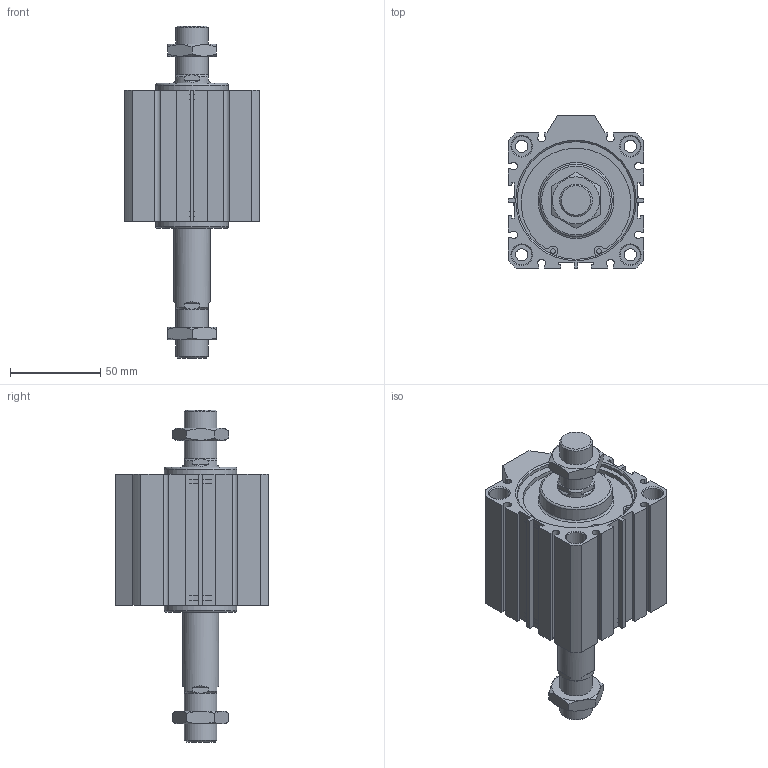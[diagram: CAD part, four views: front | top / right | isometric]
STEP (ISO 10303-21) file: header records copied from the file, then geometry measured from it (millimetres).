
FILE_DESCRIPTION((''),'2;1');
FILE_NAME('I:\3D電子目錄\氣缸\JDD\JDD-B\JDD63-B\JDD63x40-B.stp','2007-02-13T15:49:24',('662F206'),(''),'Autodesk Inventor 10','Autodesk Inventor 10','');
FILE_SCHEMA(('AUTOMOTIVE_DESIGN { 1 0 10303 214 1 1 1 1 }'));
Length unit declared in the file: millimetre
Products named in the file (3): JDD63-B; R 形環 65
Assembly tree (3 placements, depth 2):
  JDD63-B
    JDD63-B
    R 形環 65  x2
Bounding box: 75 x 84.5 x 183.5 mm (x, y, z)
Volume: 408914 mm3; surface area: 68633.2 mm2
Topology: 3 solids, 3 shells, 230 faces, 558 edges, 360 vertices
Faces by surface type: plane 132, cylinder 56, cone 38, bspline 2, torus 2
Full cylindrical faces by diameter (mm): 2.7 x4, 3 x2, 6.8 x4, 11 x8, 18 x4, 20 x2, 40 x2, 65 x4, 68 x2
Entity records: 6147 total; most frequent: CARTESIAN_POINT 1216, DIRECTION 1012, ORIENTED_EDGE 936, EDGE_CURVE 468, AXIS2_PLACEMENT_3D 374, VERTEX_POINT 332, EDGE_LOOP 308, VECTOR 264
